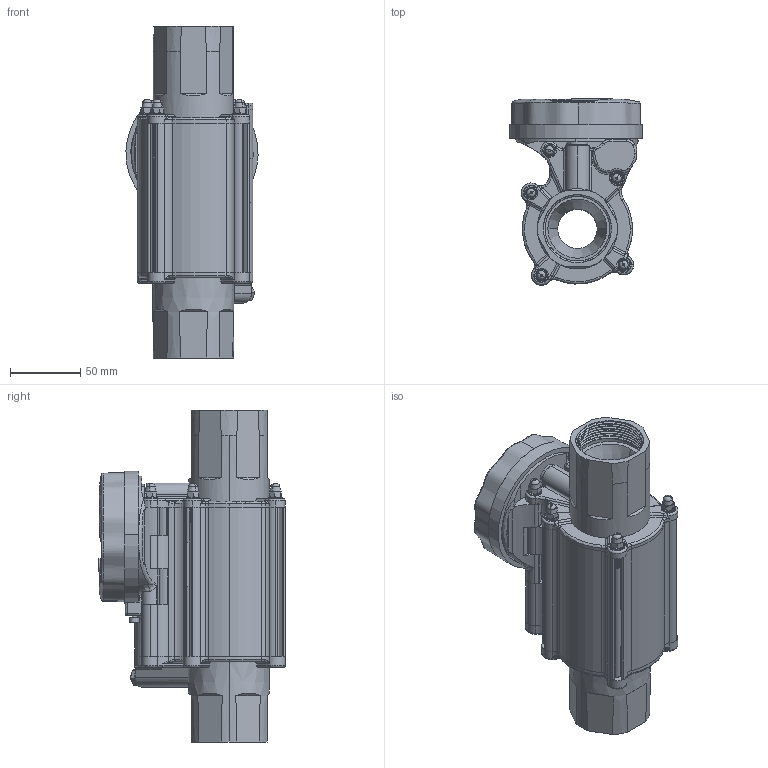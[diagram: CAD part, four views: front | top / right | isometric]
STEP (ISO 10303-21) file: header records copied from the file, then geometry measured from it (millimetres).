
FILE_DESCRIPTION (( 'STEP AP214' ), '1' );
FILE_NAME ('PAP-L040-FFG.STEP', '2020-02-05T08:43:13', ( 'Windows User' ), ( 'Watts Water' ), 'SwSTEP 2.0', 'SolidWorks 2017', '' );
FILE_SCHEMA (( 'AUTOMOTIVE_DESIGN' ));
Length unit declared in the file: millimetre
Products named in the file (1): PAP-L040-FFG
Bounding box: 93.93 x 132.45 x 236 mm (x, y, z)
Surface area: 152967 mm2 (no closed solid volume)
Topology: 0 solids, 68 shells, 1168 faces, 3988 edges, 2777 vertices
Faces by surface type: cylinder 376, plane 344, cone 216, bspline 118, torus 106, sphere 8
Entity records: 78726 total; most frequent: CARTESIAN_POINT 32837, DIRECTION 6837, ORIENTED_EDGE 6594, EDGE_CURVE 3955, VERTEX_POINT 2776, AXIS2_PLACEMENT_3D 2657, CIRCLE 1606, VECTOR 1523
